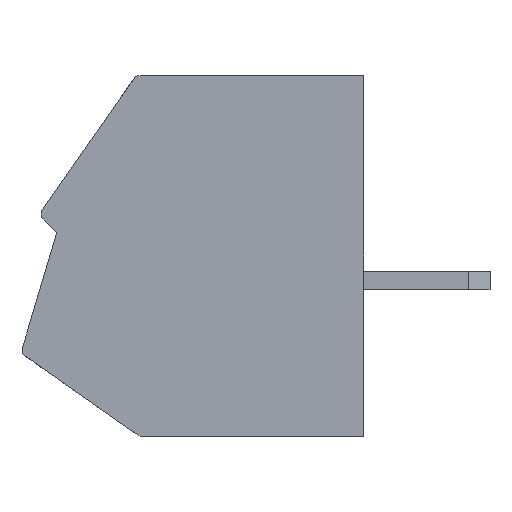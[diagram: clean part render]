
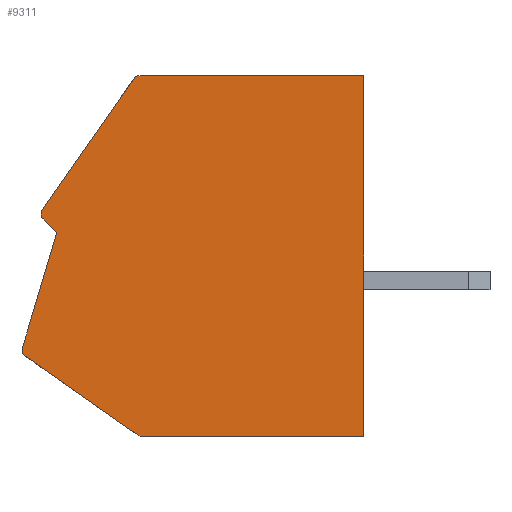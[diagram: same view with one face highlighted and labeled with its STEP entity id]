
A CAD part, left-side view. The second image highlights one B-rep face of the part: STEP entity #9311.
In plain terms, the highlighted planar face has unit normal (-1, 0, 0).
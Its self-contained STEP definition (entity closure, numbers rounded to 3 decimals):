
#2143 = CIRCLE ( 'NONE', #2176, 0.2 ) ;
#2176 = AXIS2_PLACEMENT_3D ( 'NONE', #27907, #27920, #27915 ) ;
#5999 = FACE_OUTER_BOUND ( 'NONE', #17887, .T. ) ;
#6010 = CARTESIAN_POINT ( 'NONE',  ( -7.59, 3.5, 0. ) ) ;
#6011 = DIRECTION ( 'NONE',  ( 0., 0., -1. ) ) ;
#6025 = DIRECTION ( 'NONE',  ( 1., 0., 0. ) ) ;
#6026 = PLANE ( 'NONE',  #51007 ) ;
#9311 = ADVANCED_FACE ( 'NONE', ( #5999 ), #6026, .F. ) ;
#9563 = EDGE_CURVE ( 'NONE', #43304, #42456, #19847, .T. ) ;
#9578 = EDGE_CURVE ( 'NONE', #42390, #43359, #19902, .T. ) ;
#9591 = EDGE_CURVE ( 'NONE', #43438, #43304, #51177, .T. ) ;
#9613 = EDGE_CURVE ( 'NONE', #42576, #42658, #20065, .T. ) ;
#11757 = ORIENTED_EDGE ( 'NONE', *, *, #19110, .F. ) ;
#11759 = ORIENTED_EDGE ( 'NONE', *, *, #18738, .F. ) ;
#11765 = ORIENTED_EDGE ( 'NONE', *, *, #47967, .F. ) ;
#11788 = ORIENTED_EDGE ( 'NONE', *, *, #47977, .F. ) ;
#11804 = ORIENTED_EDGE ( 'NONE', *, *, #9578, .F. ) ;
#11806 = ORIENTED_EDGE ( 'NONE', *, *, #18716, .F. ) ;
#11822 = ORIENTED_EDGE ( 'NONE', *, *, #9613, .F. ) ;
#11856 = ORIENTED_EDGE ( 'NONE', *, *, #47988, .F. ) ;
#11870 = ORIENTED_EDGE ( 'NONE', *, *, #9563, .F. ) ;
#11874 = ORIENTED_EDGE ( 'NONE', *, *, #9591, .F. ) ;
#11967 = ORIENTED_EDGE ( 'NONE', *, *, #18806, .F. ) ;
#17887 = EDGE_LOOP ( 'NONE', ( #11967, #11870, #11874, #11856, #11765, #11788, #11757, #11804, #11806, #11759, #11822 ) ) ;
#18716 = EDGE_CURVE ( 'NONE', #42394, #42390, #54809, .T. ) ;
#18738 = EDGE_CURVE ( 'NONE', #42658, #42394, #27036, .T. ) ;
#18806 = EDGE_CURVE ( 'NONE', #42456, #42576, #54861, .T. ) ;
#19110 = EDGE_CURVE ( 'NONE', #43359, #43237, #2143, .T. ) ;
#19847 = LINE ( 'NONE', #19848, #51155 ) ;
#19848 = CARTESIAN_POINT ( 'NONE',  ( -7.59, 9.752, -9.964 ) ) ;
#19855 = DIRECTION ( 'NONE',  ( 0., 0.819, 0.574 ) ) ;
#19902 = LINE ( 'NONE', #19922, #51193 ) ;
#19903 = DIRECTION ( 'NONE',  ( 0., -0.574, 0.819 ) ) ;
#19922 = CARTESIAN_POINT ( 'NONE',  ( -7.59, 12.403, -3.718 ) ) ;
#19950 = DIRECTION ( 'NONE',  ( 1., 0., 0. ) ) ;
#19959 = DIRECTION ( 'NONE',  ( 0., 0., 1. ) ) ;
#19961 = CARTESIAN_POINT ( 'NONE',  ( -7.59, 9.637, -9.8 ) ) ;
#20030 = DIRECTION ( 'NONE',  ( 0., -0.287, 0.958 ) ) ;
#20044 = CARTESIAN_POINT ( 'NONE',  ( -7.59, 12.959, -7.551 ) ) ;
#20065 = LINE ( 'NONE', #20044, #51148 ) ;
#26947 = DIRECTION ( 'NONE',  ( 1., 0., 0. ) ) ;
#26953 = CARTESIAN_POINT ( 'NONE',  ( -7.59, 12.239, -3.832 ) ) ;
#26954 = DIRECTION ( 'NONE',  ( 0., 0., 1. ) ) ;
#27036 = LINE ( 'NONE', #27075, #54791 ) ;
#27039 = DIRECTION ( 'NONE',  ( 0., 0.711, 0.703 ) ) ;
#27075 = CARTESIAN_POINT ( 'NONE',  ( -7.59, 12., -4.35 ) ) ;
#27907 = CARTESIAN_POINT ( 'NONE',  ( -7.59, 9.696, -0.2 ) ) ;
#27915 = DIRECTION ( 'NONE',  ( 0., 0., 1. ) ) ;
#27920 = DIRECTION ( 'NONE',  ( 1., 0., 0. ) ) ;
#28028 = CARTESIAN_POINT ( 'NONE',  ( -7.59, 12.767, -7.608 ) ) ;
#28043 = DIRECTION ( 'NONE',  ( 1., 0., 0. ) ) ;
#28044 = DIRECTION ( 'NONE',  ( 0., 0., 1. ) ) ;
#39570 = VECTOR ( 'NONE', #52922, 1000. ) ;
#39593 = VECTOR ( 'NONE', #52913, 1000. ) ;
#39646 = VECTOR ( 'NONE', #52969, 1000. ) ;
#42390 = VERTEX_POINT ( 'NONE', #51671 ) ;
#42394 = VERTEX_POINT ( 'NONE', #51657 ) ;
#42456 = VERTEX_POINT ( 'NONE', #51665 ) ;
#42576 = VERTEX_POINT ( 'NONE', #51725 ) ;
#42658 = VERTEX_POINT ( 'NONE', #51775 ) ;
#43237 = VERTEX_POINT ( 'NONE', #51988 ) ;
#43304 = VERTEX_POINT ( 'NONE', #51958 ) ;
#43359 = VERTEX_POINT ( 'NONE', #52069 ) ;
#43438 = VERTEX_POINT ( 'NONE', #52052 ) ;
#43719 = VERTEX_POINT ( 'NONE', #52391 ) ;
#43749 = VERTEX_POINT ( 'NONE', #52347 ) ;
#47967 = EDGE_CURVE ( 'NONE', #43719, #43749, #52921, .T. ) ;
#47977 = EDGE_CURVE ( 'NONE', #43237, #43719, #52894, .T. ) ;
#47988 = EDGE_CURVE ( 'NONE', #43749, #43438, #52941, .T. ) ;
#51007 = AXIS2_PLACEMENT_3D ( 'NONE', #6010, #6025, #6011 ) ;
#51148 = VECTOR ( 'NONE', #20030, 1000. ) ;
#51155 = VECTOR ( 'NONE', #19855, 1000. ) ;
#51177 = CIRCLE ( 'NONE', #51183, 0.2 ) ;
#51183 = AXIS2_PLACEMENT_3D ( 'NONE', #19961, #19950, #19959 ) ;
#51193 = VECTOR ( 'NONE', #19903, 1000. ) ;
#51657 = CARTESIAN_POINT ( 'NONE',  ( -7.59, 12.38, -3.975 ) ) ;
#51665 = CARTESIAN_POINT ( 'NONE',  ( -7.59, 12.882, -7.772 ) ) ;
#51671 = CARTESIAN_POINT ( 'NONE',  ( -7.59, 12.403, -3.718 ) ) ;
#51725 = CARTESIAN_POINT ( 'NONE',  ( -7.59, 12.959, -7.551 ) ) ;
#51775 = CARTESIAN_POINT ( 'NONE',  ( -7.59, 12., -4.35 ) ) ;
#51958 = CARTESIAN_POINT ( 'NONE',  ( -7.59, 9.752, -9.964 ) ) ;
#51988 = CARTESIAN_POINT ( 'NONE',  ( -7.59, 9.696, 0. ) ) ;
#52052 = CARTESIAN_POINT ( 'NONE',  ( -7.59, 9.637, -10. ) ) ;
#52069 = CARTESIAN_POINT ( 'NONE',  ( -7.59, 9.86, -0.085 ) ) ;
#52347 = CARTESIAN_POINT ( 'NONE',  ( -7.59, 3.5, -10. ) ) ;
#52391 = CARTESIAN_POINT ( 'NONE',  ( -7.59, 3.5, 0. ) ) ;
#52894 = LINE ( 'NONE', #52902, #39593 ) ;
#52897 = CARTESIAN_POINT ( 'NONE',  ( -7.59, 3.5, 0. ) ) ;
#52902 = CARTESIAN_POINT ( 'NONE',  ( -7.59, 3.5, 0. ) ) ;
#52913 = DIRECTION ( 'NONE',  ( 0., -1., 0. ) ) ;
#52921 = LINE ( 'NONE', #52897, #39570 ) ;
#52922 = DIRECTION ( 'NONE',  ( 0., 0., -1. ) ) ;
#52941 = LINE ( 'NONE', #52975, #39646 ) ;
#52969 = DIRECTION ( 'NONE',  ( 0., 1., 0. ) ) ;
#52975 = CARTESIAN_POINT ( 'NONE',  ( -7.59, 3.5, -10. ) ) ;
#54791 = VECTOR ( 'NONE', #27039, 1000. ) ;
#54809 = CIRCLE ( 'NONE', #54815, 0.2 ) ;
#54815 = AXIS2_PLACEMENT_3D ( 'NONE', #26953, #26947, #26954 ) ;
#54861 = CIRCLE ( 'NONE', #54867, 0.2 ) ;
#54867 = AXIS2_PLACEMENT_3D ( 'NONE', #28028, #28043, #28044 ) ;
